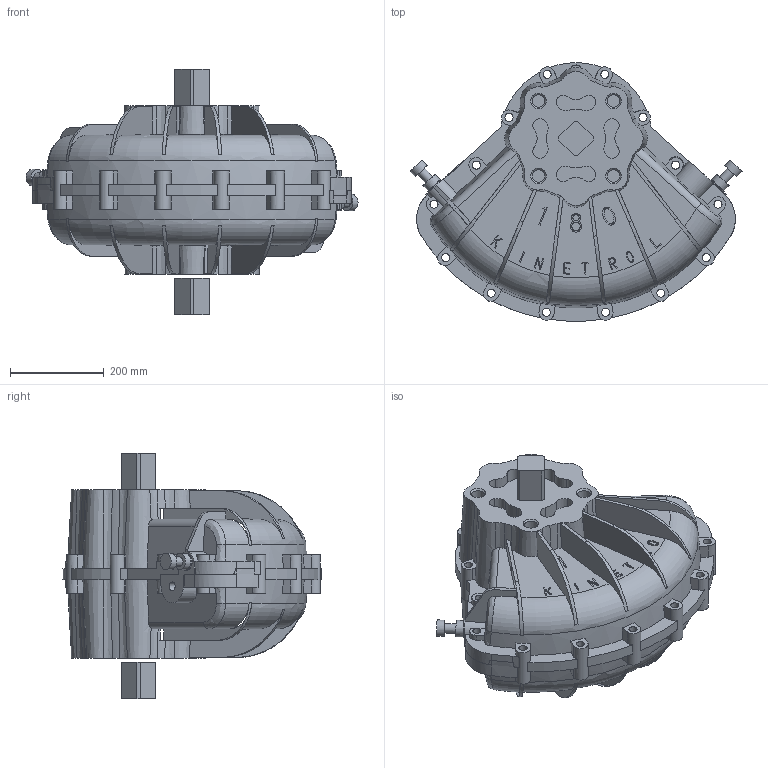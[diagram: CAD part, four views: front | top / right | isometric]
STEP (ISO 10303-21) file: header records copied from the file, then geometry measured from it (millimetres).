
FILE_DESCRIPTION( ( 'Unknown' ), '1' );
FILE_NAME( 'H:/3D Models for Customers/ACTUATOR MODELS OMO TO 300 (.pwd & .stp & .igs & .asm)/180-100.stp', 'Unknown', ( 'Unknown' ), ( 'Unknown' ), 'XStep 1.0', 'Unknown', ' ' );
FILE_SCHEMA( ( 'CONFIG_CONTROL_DESIGN' ) );
Length unit declared in the file: millimetre
Products named in the file (2): 18 case.par 1 1
Bounding box: 708.52 x 551.16 x 524 mm (x, y, z)
Volume: 52780654.7 mm3; surface area: 1473926.5 mm2
Topology: 2 solids, 4 shells, 725 faces, 1972 edges, 1314 vertices
Faces by surface type: plane 437, cylinder 184, cone 76, torus 18, bspline 10
Full cylindrical faces by diameter (mm): 13.09 x2, 17.2 x14, 17.5 x2, 18 x2, 18.531 x2, 20 x2, 26.5 x8, 35 x4, 36.5 x2
Entity records: 26493 total; most frequent: CARTESIAN_POINT 7986, DIRECTION 3860, ORIENTED_EDGE 3820, EDGE_CURVE 1910, AXIS2_PLACEMENT_3D 1403, VERTEX_POINT 1298, LINE 1054, VECTOR 1054
